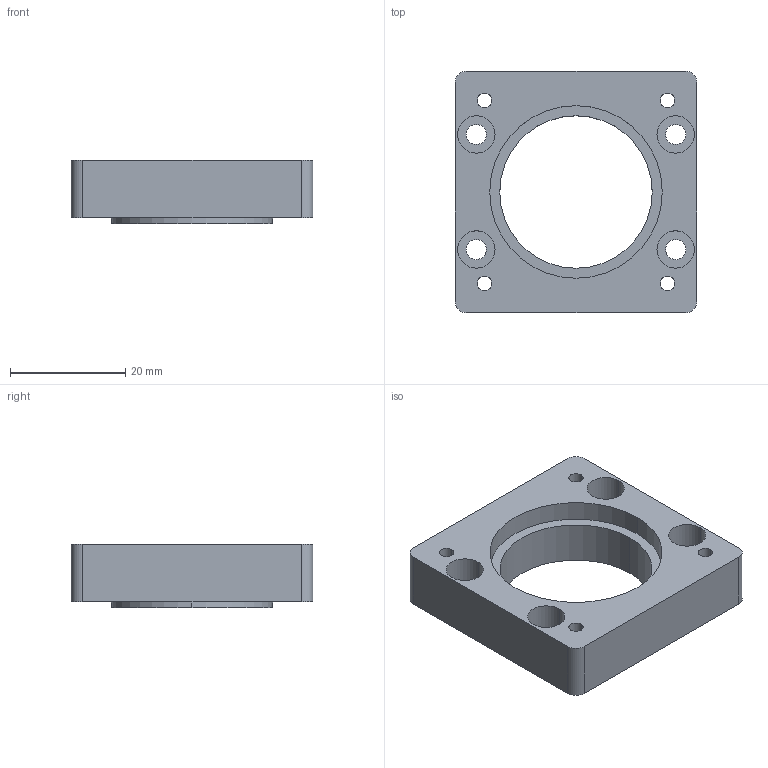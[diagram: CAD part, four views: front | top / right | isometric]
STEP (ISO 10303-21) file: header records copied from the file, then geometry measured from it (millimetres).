
FILE_DESCRIPTION (( 'STEP AP214' ), '1' );
FILE_NAME ('KK-60-F2 侂狟100W萇儂啣.STEP', '2021-05-29T07:06:12', ( '' ), ( '' ), 'SwSTEP 2.0', 'SolidWorks 2017', '' );
FILE_SCHEMA (( 'AUTOMOTIVE_DESIGN' ));
Length unit declared in the file: millimetre
Products named in the file (1): KK-60-F2 侂狟100W萇儂啣
Bounding box: 42 x 42 x 11 mm (x, y, z)
Volume: 10558.4 mm3; surface area: 5932.2 mm2
Topology: 1 solids, 1 shells, 46 faces, 114 edges, 76 vertices
Faces by surface type: cylinder 34, plane 12
Entity records: 1564 total; most frequent: DIRECTION 276, CARTESIAN_POINT 237, ORIENTED_EDGE 228, AXIS2_PLACEMENT_3D 115, EDGE_CURVE 114, VERTEX_POINT 76, EDGE_LOOP 70, CIRCLE 68
